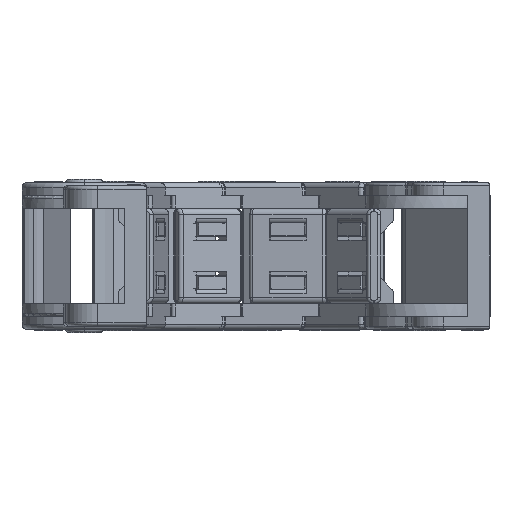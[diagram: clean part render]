
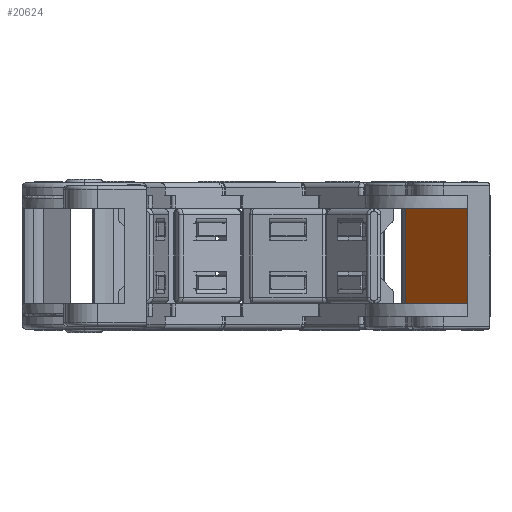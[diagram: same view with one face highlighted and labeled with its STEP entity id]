
A CAD part, left-side view. The second image highlights one B-rep face of the part: STEP entity #20624.
In plain terms, the highlighted planar face has unit normal (-0.667, 0.745, 0) as drawn and (0, 1, 0) by its records, which use the part's own axes.
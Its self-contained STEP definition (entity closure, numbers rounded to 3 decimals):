
#1009 = DIRECTION ( 'NONE',  ( 1., 0., 0. ) ) ;
#1268 = ORIENTED_EDGE ( 'NONE', *, *, #11570, .T. ) ;
#1440 = CARTESIAN_POINT ( 'NONE',  ( -5.983, -7.95, -12. ) ) ;
#1615 = EDGE_CURVE ( 'NONE', #26235, #25725, #13224, .T. ) ;
#3197 = LINE ( 'NONE', #12994, #29921 ) ;
#3454 = CARTESIAN_POINT ( 'NONE',  ( -5.983, -7.95, -7. ) ) ;
#3830 = CARTESIAN_POINT ( 'NONE',  ( -5.983, -7.95, -12. ) ) ;
#3938 = DIRECTION ( 'NONE',  ( 0., -1., 0. ) ) ;
#6117 = LINE ( 'NONE', #1440, #18647 ) ;
#6539 = FACE_OUTER_BOUND ( 'NONE', #10978, .T. ) ;
#10978 = EDGE_LOOP ( 'NONE', ( #22428, #22316, #31586, #1268 ) ) ;
#11570 = EDGE_CURVE ( 'NONE', #26235, #21459, #3197, .T. ) ;
#11687 = AXIS2_PLACEMENT_3D ( 'NONE', #3830, #3938, #21490 ) ;
#12994 = CARTESIAN_POINT ( 'NONE',  ( -25.644, -7.95, -12. ) ) ;
#13224 = LINE ( 'NONE', #20882, #25022 ) ;
#16403 = DIRECTION ( 'NONE',  ( 0., 0., 1. ) ) ;
#17467 = EDGE_CURVE ( 'NONE', #21459, #27799, #31210, .T. ) ;
#18647 = VECTOR ( 'NONE', #16403, 1000. ) ;
#18929 = PLANE ( 'NONE',  #11687 ) ;
#19140 = CARTESIAN_POINT ( 'NONE',  ( -25.644, -7.95, -22. ) ) ;
#19707 = CARTESIAN_POINT ( 'NONE',  ( -25.644, -7.95, -7. ) ) ;
#20624 = ADVANCED_FACE ( 'NONE', ( #6539 ), #18929, .F. ) ;
#20882 = CARTESIAN_POINT ( 'NONE',  ( -5.983, -7.95, -22. ) ) ;
#21459 = VERTEX_POINT ( 'NONE', #19707 ) ;
#21490 = DIRECTION ( 'NONE',  ( 1., 0., 0. ) ) ;
#22316 = ORIENTED_EDGE ( 'NONE', *, *, #31391, .F. ) ;
#22428 = ORIENTED_EDGE ( 'NONE', *, *, #17467, .T. ) ;
#23772 = VECTOR ( 'NONE', #1009, 1000. ) ;
#25022 = VECTOR ( 'NONE', #27186, 1000. ) ;
#25725 = VERTEX_POINT ( 'NONE', #30772 ) ;
#26235 = VERTEX_POINT ( 'NONE', #19140 ) ;
#27186 = DIRECTION ( 'NONE',  ( 1., 0., 0. ) ) ;
#27799 = VERTEX_POINT ( 'NONE', #3454 ) ;
#29921 = VECTOR ( 'NONE', #30563, 1000. ) ;
#30563 = DIRECTION ( 'NONE',  ( 0., 0., 1. ) ) ;
#30772 = CARTESIAN_POINT ( 'NONE',  ( -5.983, -7.95, -22. ) ) ;
#31067 = CARTESIAN_POINT ( 'NONE',  ( -5.983, -7.95, -7. ) ) ;
#31210 = LINE ( 'NONE', #31067, #23772 ) ;
#31391 = EDGE_CURVE ( 'NONE', #25725, #27799, #6117, .T. ) ;
#31586 = ORIENTED_EDGE ( 'NONE', *, *, #1615, .F. ) ;
